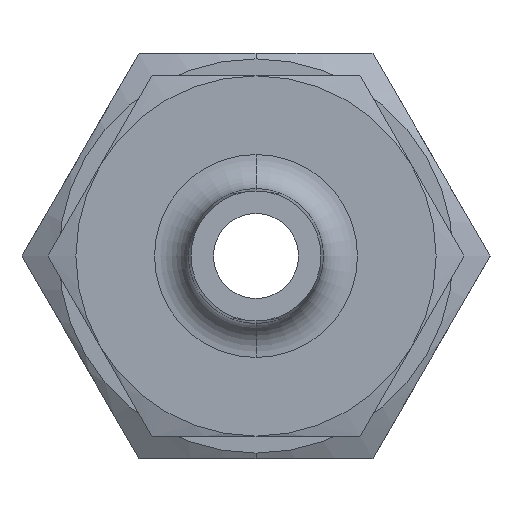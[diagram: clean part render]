
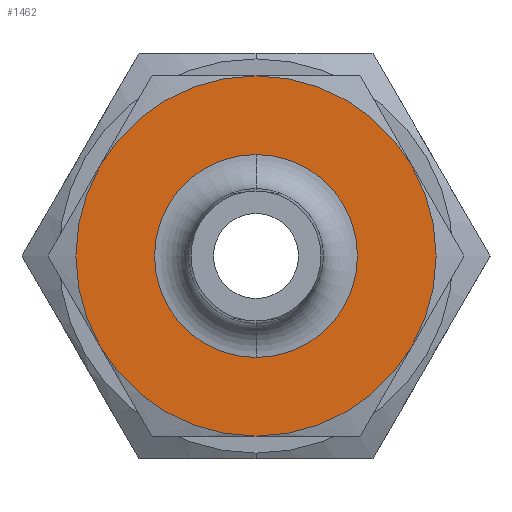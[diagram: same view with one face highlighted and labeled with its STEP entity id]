
A CAD part, left-side view. The second image highlights one B-rep face of the part: STEP entity #1462.
In plain terms, the highlighted planar face has unit normal (-1, 0, 0).
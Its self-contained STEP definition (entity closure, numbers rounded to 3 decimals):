
#85 = CARTESIAN_POINT ( 'NONE',  ( 0., 5.499, -3.175 ) ) ;
#104 = CARTESIAN_POINT ( 'NONE',  ( 0., 0., -3.58 ) ) ;
#105 = DIRECTION ( 'NONE',  ( 0., 0., -1. ) ) ;
#106 = DIRECTION ( 'NONE',  ( 1., 0., 0. ) ) ;
#107 = CARTESIAN_POINT ( 'NONE',  ( 0., 0., 0. ) ) ;
#108 = AXIS2_PLACEMENT_3D ( 'NONE', #107, #106, #105 ) ;
#109 = CIRCLE ( 'NONE', #108, 3.58 ) ;
#120 = DIRECTION ( 'NONE',  ( 0., 0., -1. ) ) ;
#121 = DIRECTION ( 'NONE',  ( 1., 0., 0. ) ) ;
#122 = AXIS2_PLACEMENT_3D ( 'NONE', #129, #121, #120 ) ;
#129 = CARTESIAN_POINT ( 'NONE',  ( 0., 7.332, 0. ) ) ;
#130 = PLANE ( 'NONE',  #122 ) ;
#131 = FACE_BOUND ( 'NONE', #1463, .T. ) ;
#148 = CARTESIAN_POINT ( 'NONE',  ( 0., 0., 6.35 ) ) ;
#158 = FACE_OUTER_BOUND ( 'NONE', #1467, .T. ) ;
#179 = DIRECTION ( 'NONE',  ( 0., 0., -1. ) ) ;
#180 = DIRECTION ( 'NONE',  ( 1., 0., 0. ) ) ;
#181 = CARTESIAN_POINT ( 'NONE',  ( 0., 0., 0. ) ) ;
#182 = AXIS2_PLACEMENT_3D ( 'NONE', #181, #180, #179 ) ;
#183 = CIRCLE ( 'NONE', #182, 6.35 ) ;
#184 = CARTESIAN_POINT ( 'NONE',  ( 0., 0., 0. ) ) ;
#200 = AXIS2_PLACEMENT_3D ( 'NONE', #206, #207, #204 ) ;
#201 = DIRECTION ( 'NONE',  ( 1., 0., 0. ) ) ;
#202 = AXIS2_PLACEMENT_3D ( 'NONE', #184, #201, #209 ) ;
#203 = CIRCLE ( 'NONE', #202, 6.35 ) ;
#204 = DIRECTION ( 'NONE',  ( 0., 0., -1. ) ) ;
#205 = CIRCLE ( 'NONE', #200, 3.58 ) ;
#206 = CARTESIAN_POINT ( 'NONE',  ( 0., 0., 0. ) ) ;
#207 = DIRECTION ( 'NONE',  ( 1., 0., 0. ) ) ;
#209 = DIRECTION ( 'NONE',  ( 0., 0., -1. ) ) ;
#335 = CARTESIAN_POINT ( 'NONE',  ( 0., -5.499, -3.175 ) ) ;
#447 = CARTESIAN_POINT ( 'NONE',  ( 0., 0., -6.35 ) ) ;
#1096 = CIRCLE ( 'NONE', #1228, 6.35 ) ;
#1130 = CARTESIAN_POINT ( 'NONE',  ( 0., -5.499, 3.175 ) ) ;
#1131 = CARTESIAN_POINT ( 'NONE',  ( 0., 5.499, 3.175 ) ) ;
#1211 = DIRECTION ( 'NONE',  ( 0., 0., -1. ) ) ;
#1212 = DIRECTION ( 'NONE',  ( 1., 0., 0. ) ) ;
#1213 = CARTESIAN_POINT ( 'NONE',  ( 0., 0., 0. ) ) ;
#1214 = AXIS2_PLACEMENT_3D ( 'NONE', #1213, #1212, #1211 ) ;
#1215 = CIRCLE ( 'NONE', #1214, 6.35 ) ;
#1216 = DIRECTION ( 'NONE',  ( 0., 0., 1. ) ) ;
#1217 = DIRECTION ( 'NONE',  ( -1., 0., 0. ) ) ;
#1218 = CARTESIAN_POINT ( 'NONE',  ( 0., 0., 0. ) ) ;
#1219 = AXIS2_PLACEMENT_3D ( 'NONE', #1218, #1217, #1216 ) ;
#1220 = CIRCLE ( 'NONE', #1219, 6.35 ) ;
#1221 = DIRECTION ( 'NONE',  ( 0., 0., -1. ) ) ;
#1222 = DIRECTION ( 'NONE',  ( 1., 0., 0. ) ) ;
#1223 = AXIS2_PLACEMENT_3D ( 'NONE', #1229, #1222, #1221 ) ;
#1224 = CIRCLE ( 'NONE', #1223, 6.35 ) ;
#1225 = DIRECTION ( 'NONE',  ( 0., 0., -1. ) ) ;
#1226 = DIRECTION ( 'NONE',  ( 1., 0., 0. ) ) ;
#1227 = CARTESIAN_POINT ( 'NONE',  ( 0., 0., 0. ) ) ;
#1228 = AXIS2_PLACEMENT_3D ( 'NONE', #1227, #1226, #1225 ) ;
#1229 = CARTESIAN_POINT ( 'NONE',  ( 0., 0., 0. ) ) ;
#1265 = VERTEX_POINT ( 'NONE', #1726 ) ;
#1329 = VERTEX_POINT ( 'NONE', #1131 ) ;
#1334 = VERTEX_POINT ( 'NONE', #1130 ) ;
#1349 = ORIENTED_EDGE ( 'NONE', *, *, #1350, .F. ) ;
#1350 = EDGE_CURVE ( 'NONE', #1334, #1483, #1096, .T. ) ;
#1351 = ORIENTED_EDGE ( 'NONE', *, *, #1352, .F. ) ;
#1352 = EDGE_CURVE ( 'NONE', #1427, #1334, #1224, .T. ) ;
#1353 = ORIENTED_EDGE ( 'NONE', *, *, #1354, .T. ) ;
#1354 = EDGE_CURVE ( 'NONE', #1427, #1329, #1220, .T. ) ;
#1355 = ORIENTED_EDGE ( 'NONE', *, *, #1356, .F. ) ;
#1356 = EDGE_CURVE ( 'NONE', #1424, #1329, #1215, .T. ) ;
#1412 = EDGE_CURVE ( 'NONE', #1265, #1413, #109, .T. ) ;
#1413 = VERTEX_POINT ( 'NONE', #104 ) ;
#1424 = VERTEX_POINT ( 'NONE', #85 ) ;
#1427 = VERTEX_POINT ( 'NONE', #148 ) ;
#1462 = ADVANCED_FACE ( 'NONE', ( #131, #158 ), #130, .F. ) ;
#1463 = EDGE_LOOP ( 'NONE', ( #1464, #1466 ) ) ;
#1464 = ORIENTED_EDGE ( 'NONE', *, *, #1465, .T. ) ;
#1465 = EDGE_CURVE ( 'NONE', #1413, #1265, #205, .T. ) ;
#1466 = ORIENTED_EDGE ( 'NONE', *, *, #1412, .T. ) ;
#1467 = EDGE_LOOP ( 'NONE', ( #1468, #1470, #1349, #1351, #1353, #1355 ) ) ;
#1468 = ORIENTED_EDGE ( 'NONE', *, *, #1469, .F. ) ;
#1469 = EDGE_CURVE ( 'NONE', #1570, #1424, #183, .T. ) ;
#1470 = ORIENTED_EDGE ( 'NONE', *, *, #1471, .F. ) ;
#1471 = EDGE_CURVE ( 'NONE', #1483, #1570, #203, .T. ) ;
#1483 = VERTEX_POINT ( 'NONE', #335 ) ;
#1570 = VERTEX_POINT ( 'NONE', #447 ) ;
#1726 = CARTESIAN_POINT ( 'NONE',  ( 0., 0., 3.58 ) ) ;
